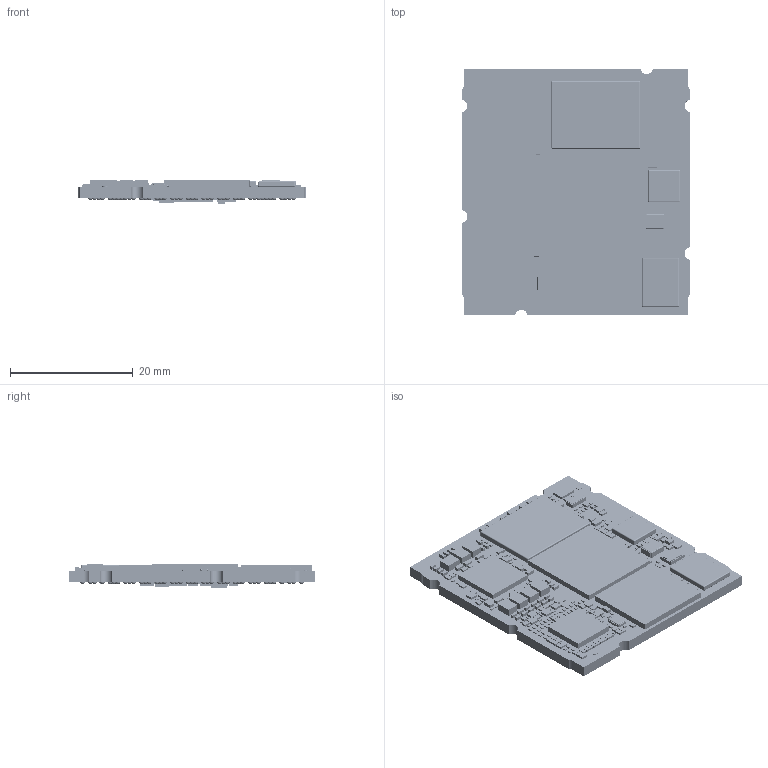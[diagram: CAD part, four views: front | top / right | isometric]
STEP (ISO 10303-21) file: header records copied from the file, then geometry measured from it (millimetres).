
FILE_DESCRIPTION(('STEP AP214'),'1');
FILE_NAME('1518-7_BoardAndModels.step','2025-01-08T11:08:55',(' '),(' '),'Spatial InterOp 3D','XD3DPlugin XRACreate',' ');
FILE_SCHEMA(('automotive_design'));
Length unit declared in the file: millimetre
Products named in the file (221): Submodel-N:\GROUP\DEVELOP\HARDWARE\PCL-069_phyCORE-i.MX8M_Mini\Design\1518.7_WIP\001\PCL-069\Board1_PCB\Layout\3D\Input_S\C0402C270F5GAC_0.xtd; C0402C270F5GAC_0; Submodel-CAP2013_part_simplified_0402-1200x600um; DesignRootModel; Submodel-N:\GROUP\DEVELOP\HARDWARE\PCL-069_phyCORE-i.MX8M_Mini\Design\1518.7_WIP\001\PCL-069\Board1_PCB\Layout\3D\Input_S\RC0603F1005CS.xtd; RC0603F1005CS; Submodel-RES5673_part_simplified_0201; Submodel-N:\GROUP\DEVELOP\HARDWARE\PCL-069_phyCORE-i.MX8M_Mini\Design\1518.7_WIP\001\PCL-069\Board1_PCB\Layout\3D\Input_S\MLP2520S1R0S.xtd; MLP2520S1R0S; Submodel-IND1673_part_simplified_L-TFM252012; Submodel-N:\GROUP\DEVELOP\HARDWARE\PCL-069_phyCORE-i.MX8M_Mini\Design\1518.7_WIP\001\PCL-069\Board1_PCB\Layout\3D\Input_S\DIODE1713.xtd; DIODE1713; Submodel-DIODE1713_part_simplified_0201-WLL; Submodel-N:\GROUP\DEVELOP\HARDWARE\PCL-069_phyCORE-i.MX8M_Mini\Design\1518.7_WIP\001\PCL-069\Board1_PCB\Layout\3D\Input_S\REMOVE_MECH243.xtd; REMOVE_MECH243; Submodel-MECH243_part_simplified_Fiducial-square; Submodel-RES5723_part_simplified_0201; Submodel-N:\GROUP\DEVELOP\HARDWARE\PCL-069_phyCORE-i.MX8M_Mini\Design\1518.7_WIP\001\PCL-069\Board1_PCB\Layout\3D\Input_S\CRCW020110R7JNEF.xtd; CRCW020110R7JNEF; Submodel-RES5653_part_simplified_0201; Submodel-N:\GROUP\DEVELOP\HARDWARE\PCL-069_phyCORE-i.MX8M_Mini\Design\1518.7_WIP\001\PCL-069\Board1_PCB\Layout\3D\Input_S\xd_qfn_47.xtd; xd_qfn_47; Submodel-XCVR1233_part_simplified_QFNQ49-50-EP4_comma_2x4_comma_2-C3; Submodel-RES5773_part_simplified_0201; Submodel-RES5803_part_simplified_0201; Submodel-N:\GROUP\DEVELOP\HARDWARE\PCL-069_phyCORE-i.MX8M_Mini\Design\1518.7_WIP\001\PCL-069\Board1_PCB\Layout\3D\Input_S\TRANSISTOR932.xtd; TRANSISTOR932; Submodel-TRANSISTOR932_part_simplified_DFN-0806-3; Submodel-N:\GROUP\DEVELOP\HARDWARE\PCL-069_phyCORE-i.MX8M_Mini\Design\1518.7_WIP\001\PCL-069\Board1_PCB\Layout\3D\Input_S\REMOVE_MECH233.xtd; REMOVE_MECH233; Submodel-MECH233_part_simplified_Fiducial-round; Submodel-RES6433_part_simplified_0201; Submodel-N:\GROUP\DEVELOP\HARDWARE\PCL-069_phyCORE-i.MX8M_Mini\Design\1518.7_WIP\001\PCL-069\Board1_PCB\Layout\3D\Input_S\xd_qfn_54.xtd; xd_qfn_54; Submodel-SWREG1233_part_simplified_QFNQ56-50-EP5_comma_1x4_comma_96-C3; Submodel-N:\GROUP\DEVELOP\HARDWARE\PCL-069_phyCORE-i.MX8M_Mini\Design\1518.7_WIP\001\PCL-069\Board1_PCB\Layout\3D\Input_S\OSC883.xtd; OSC883; Submodel-OSC883_part_simplified_QQ-JO32-C3; Submodel-RES5953_part_simplified_0201; Submodel-N:\GROUP\DEVELOP\HARDWARE\PCL-069_phyCORE-i.MX8M_Mini\Design\1518.7_WIP\001\PCL-069\Board1_PCB\Layout\3D\Input_S\0201YC101KAZ2A.xtd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
Assembly tree (621 placements, depth 6):
  1518-7_BoardAndModels
    DesignRootModel
      Submodel-CAP2013_part_simplified_0402-1200x600um  x51
        Submodel-N:\GROUP\DEVELOP\HARDWARE\PCL-069_phyCORE-i.MX8M_Mini\Design\1518.7_WIP\001\PCL-069\Board1_PCB\Layout\3D\Input_S\C0402C270F5GAC_0.xtd
          C0402C270F5GAC_0
      Submodel-RES5673_part_simplified_0201  x75
        Submodel-N:\GROUP\DEVELOP\HARDWARE\PCL-069_phyCORE-i.MX8M_Mini\Design\1518.7_WIP\001\PCL-069\Board1_PCB\Layout\3D\Input_S\RC0603F1005CS.xtd
          RC0603F1005CS
      Submodel-IND1673_part_simplified_L-TFM252012  x7
        Submodel-N:\GROUP\DEVELOP\HARDWARE\PCL-069_phyCORE-i.MX8M_Mini\Design\1518.7_WIP\001\PCL-069\Board1_PCB\Layout\3D\Input_S\MLP2520S1R0S.xtd
          MLP2520S1R0S
      Submodel-DIODE1713_part_simplified_0201-WLL  x5
        Submodel-N:\GROUP\DEVELOP\HARDWARE\PCL-069_phyCORE-i.MX8M_Mini\Design\1518.7_WIP\001\PCL-069\Board1_PCB\Layout\3D\Input_S\DIODE1713.xtd
          DIODE1713
      Submodel-MECH243_part_simplified_Fiducial-square  x2
        Submodel-N:\GROUP\DEVELOP\HARDWARE\PCL-069_phyCORE-i.MX8M_Mini\Design\1518.7_WIP\001\PCL-069\Board1_PCB\Layout\3D\Input_S\REMOVE_MECH243.xtd
          REMOVE_MECH243
      Submodel-RES5723_part_simplified_0201  x3
        Submodel-N:\GROUP\DEVELOP\HARDWARE\PCL-069_phyCORE-i.MX8M_Mini\Design\1518.7_WIP\001\PCL-069\Board1_PCB\Layout\3D\Input_S\RC0603F1005CS.xtd
          RC0603F1005CS
      Submodel-RES5653_part_simplified_0201  x15
        Submodel-N:\GROUP\DEVELOP\HARDWARE\PCL-069_phyCORE-i.MX8M_Mini\Design\1518.7_WIP\001\PCL-069\Board1_PCB\Layout\3D\Input_S\CRCW020110R7JNEF.xtd
          CRCW020110R7JNEF
      Submodel-XCVR1233_part_simplified_QFNQ49-50-EP4_comma_2x4_comma_2-C3
        Submodel-N:\GROUP\DEVELOP\HARDWARE\PCL-069_phyCORE-i.MX8M_Mini\Design\1518.7_WIP\001\PCL-069\Board1_PCB\Layout\3D\Input_S\xd_qfn_47.xtd
          xd_qfn_47
      Submodel-RES5773_part_simplified_0201  x13
        Submodel-N:\GROUP\DEVELOP\HARDWARE\PCL-069_phyCORE-i.MX8M_Mini\Design\1518.7_WIP\001\PCL-069\Board1_PCB\Layout\3D\Input_S\RC0603F1005CS.xtd
          RC0603F1005CS
      Submodel-RES5803_part_simplified_0201  x23
        Submodel-N:\GROUP\DEVELOP\HARDWARE\PCL-069_phyCORE-i.MX8M_Mini\Design\1518.7_WIP\001\PCL-069\Board1_PCB\Layout\3D\Input_S\RC0603F1005CS.xtd
          RC0603F1005CS
      Submodel-TRANSISTOR932_part_simplified_DFN-0806-3  x5
        Submodel-N:\GROUP\DEVELOP\HARDWARE\PCL-069_phyCORE-i.MX8M_Mini\Design\1518.7_WIP\001\PCL-069\Board1_PCB\Layout\3D\Input_S\TRANSISTOR932.xtd
          TRANSISTOR932
      Submodel-MECH233_part_simplified_Fiducial-round  x2
        Submodel-N:\GROUP\DEVELOP\HARDWARE\PCL-069_phyCORE-i.MX8M_Mini\Design\1518.7_WIP\001\PCL-069\Board1_PCB\Layout\3D\Input_S\REMOVE_MECH233.xtd
          REMOVE_MECH233
      Submodel-RES6433_part_simplified_0201  x2
        Submodel-N:\GROUP\DEVELOP\HARDWARE\PCL-069_phyCORE-i.MX8M_Mini\Design\1518.7_WIP\001\PCL-069\Board1_PCB\Layout\3D\Input_S\CRCW020110R7JNEF.xtd
          CRCW020110R7JNEF
      Submodel-SWREG1233_part_simplified_QFNQ56-50-EP5_comma_1x4_comma_96-C3
        Submodel-N:\GROUP\DEVELOP\HARDWARE\PCL-069_phyCORE-i.MX8M_Mini\Design\1518.7_WIP\001\PCL-069\Board1_PCB\Layout\3D\Input_S\xd_qfn_54.xtd
          xd_qfn_54
      Submodel-OSC883_part_simplified_QQ-JO32-C3
        Submodel-N:\GROUP\DEVELOP\HARDWARE\PCL-069_phyCORE-i.MX8M_Mini\Design\1518.7_WIP\001\PCL-069\Board1_PCB\Layout\3D\Input_S\OSC883.xtd
          OSC883
      Submodel-RES5953_part_simplified_0201  x2
        Submodel-N:\GROUP\DEVELOP\HARDWARE\PCL-069_phyCORE-i.MX8M_Mini\Design\1518.7_WIP\001\PCL-069\Board1_PCB\Layout\3D\Input_S\RC0603F1005CS.xtd
          RC0603F1005CS
      Submodel-CAP3043_part_simplified_0201
        Submodel-N:\GROUP\DEVELOP\HARDWARE\PCL-069_phyCORE-i.MX8M_Mini\Design\1518.7_WIP\001\PCL-069\Board1_PCB\Layout\3D\Input_S\0201YC101KAZ2A.xtd
          0201YC101KAZ2A
      Submodel-OSC723_part_simplified_QQ-JXS32-C3
        Submodel-N:\GROUP\DEVELOP\HARDWARE\PCL-069_phyCORE-i.MX8M_Mini\Design\1518.7_WIP\001\PCL-069\Board1_PCB\Layout\3D\Input_S\xd_xtal_4t_15.xtd
          xd_xtal_4t_15
      Submodel-CAP3313_part_simplified_0201  x4
        Submodel-N:\GROUP\DEVELOP\HARDWARE\PCL-069_phyCORE-i.MX8M_Mini\Design\1518.7_WIP\001\PCL-069\Board1_PCB\Layout\3D\Input_S\0201YC101KAZ2A.xtd
          0201YC101KAZ2A
      Submodel-CAP3293_part_simplified_0201  x2
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Bounding box: 37 x 40 x 4.06 mm (x, y, z)
Volume: 3491.4 mm3; surface area: 7023.9 mm2
Topology: 858 solids, 858 shells, 6568 faces, 16074 edges, 10674 vertices
Faces by surface type: plane 4509, sphere 1698, cylinder 308, bspline 37, torus 16
Entity records: 149952 total; most frequent: DIRECTION 19705, CARTESIAN_POINT 19286, ORIENTED_EDGE 14934, AXIS2_PLACEMENT_3D 7951, EDGE_CURVE 7467, STYLED_ITEM 5905, PRESENTATION_STYLE_ASSIGNMENT 5905, COLOUR_RGB 5905
